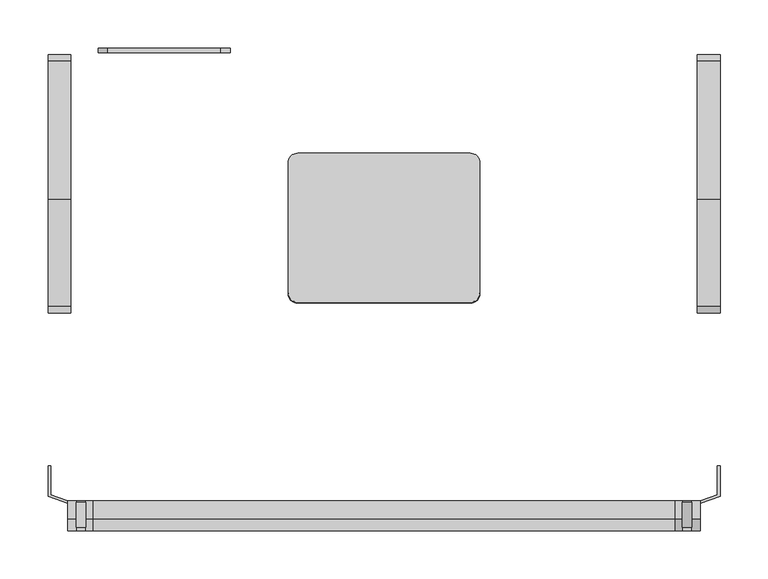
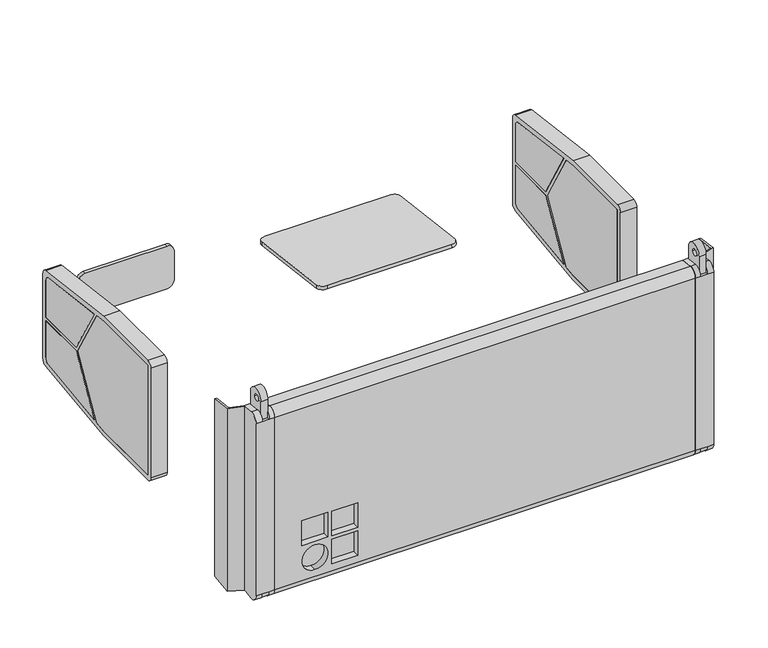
"""IFC4 building model written with IfcOpenShell, lengths in millimetres: proxy geometry, d&b SL-Series XSLi : XSLi12."""

from ifc_helpers import new_model, si_unit, point, frame, frame_2d, origin, place, context, project, spatial, polyline, circle_curve, trimmed, segment, composite_curve, outline, extrude, faceted_brep, source, transform, mapped, element, save
from ifc_brep_helpers import plane_surface, cylinder_surface, revolved_surface, advanced_brep


def communication_devices_4245e99e(model_context):
    return source(origin(), model_context, "Body", "SolidModel", [
        extrude(outline(composite_curve([segment(trimmed(circle_curve(frame_2d((119.6410514, 66.6180129)), 7.5), [point((120.5875427, 74.0580501))], [point((127.1410514, 66.6180129))], False, "CARTESIAN"), True, "CONTINUOUS"), segment(polyline([(127.1410514, 66.6180129), (127.1410514, 10.5484681), (51.7834, 10.5484681), (6.7553622, 88.5393174), (120.5875427, 74.0580501)]), True, "CONTINUOUS")], self_intersect=False)), frame((150.0, 0.0, 0.0), z_axis=(1.0, 0.0, 0.0), x_axis=(0.0, 1.0, 0.0)), (0.0, 0.0, 1.0), 23.6),
        extrude(outline(composite_curve([segment(polyline([(120.5875427, -57.9611139), (6.7552861, -72.4423908), (51.7833295, 5.5484681), (127.1410514, 5.5484681), (127.1410514, -50.5210766)]), True, "CONTINUOUS"), segment(trimmed(circle_curve(frame_2d((119.6410514, -50.5210766)), 7.5), [point((127.1410514, -50.5210766))], [point((120.5875427, -57.9611139))], False, "CARTESIAN"), True, "CONTINUOUS")], self_intersect=False)), frame((150.0, 0.0, 0.0), z_axis=(1.0, 0.0, 0.0), x_axis=(0.0, 1.0, 0.0)), (0.0, 0.0, 1.0), 23.6),
        extrude(outline(polyline([(-126.8744027, 91.5485291), (-16.8989996, 91.5485291), (0.5241915, 89.3320216), (47.4532377, 8.0485291), (0.5241154, -73.2350951), (-16.8980401, -75.4514709), (-126.8744027, -75.4514709), (-126.8744027, 91.5485291)])), frame((150.0, 0.0, 0.0), z_axis=(1.0, 0.0, 0.0), x_axis=(0.0, 1.0, 0.0)), (0.0, 0.0, 1.0), 23.6),
        extrude(outline(composite_curve([segment(trimmed(circle_curve(frame_2d((-126.8744027, -75.4514709)), 7.5), [point((-126.8744027, -82.9514709))], [point((-134.3744027, -75.4514709))], False, "CARTESIAN"), True, "CONTINUOUS"), segment(polyline([(-134.3744027, -75.4514709), (-134.3744027, 91.5485291)]), True, "CONTINUOUS"), segment(trimmed(circle_curve(frame_2d((-126.8744027, 91.5485291)), 7.5), [point((-134.3744027, 91.5485291))], [point((-126.8744027, 99.0485291))], False, "CARTESIAN"), True, "CONTINUOUS"), segment(polyline([(-126.8744027, 99.0485291), (-16.4238546, 99.0485291), (128.0875427, 80.6643766)]), True, "CONTINUOUS"), segment(trimmed(circle_curve(frame_2d((127.1410514, 73.2243394)), 7.5), [point((128.0875427, 80.6643766))], [point((134.6410514, 73.2243394))], False, "CARTESIAN"), True, "CONTINUOUS"), segment(polyline([(134.6410514, 73.2243394), (134.6410514, -57.1274031)]), True, "CONTINUOUS"), segment(trimmed(circle_curve(frame_2d((127.1410514, -57.1274031)), 7.5), [point((134.6410514, -57.1274031))], [point((128.0875427, -64.5674404))], False, "CARTESIAN"), True, "CONTINUOUS"), segment(polyline([(128.0875427, -64.5674404), (-16.422895, -82.9514709), (-126.8744027, -82.9514709)]), True, "CONTINUOUS")], self_intersect=False), holes=[polyline([(-126.8744027, 91.5485291), (-126.8744027, -75.4514709), (-16.8980401, -75.4514709), (0.5241154, -73.2350951), (47.4532377, 8.0485291), (0.5241915, 89.3320216), (-16.8989996, 91.5485291), (-126.8744027, 91.5485291)]), composite_curve([segment(polyline([(6.7552861, -72.4423908), (120.5875427, -57.9611139)]), True, "CONTINUOUS"), segment(trimmed(circle_curve(frame_2d((119.6410514, -50.5210766)), 7.5), [point((120.5875427, -57.9611139))], [point((127.1410514, -50.5210766))], True, "CARTESIAN"), True, "CONTINUOUS"), segment(polyline([(127.1410514, -50.5210766), (127.1410514, 5.5484681), (51.7833295, 5.5484681), (6.7552861, -72.4423908)]), True, "CONTINUOUS")], self_intersect=False), composite_curve([segment(polyline([(51.7834, 10.5484681), (127.1410514, 10.5484681), (127.1410514, 66.6180129)]), True, "CONTINUOUS"), segment(trimmed(circle_curve(frame_2d((119.6410514, 66.6180129)), 7.5), [point((127.1410514, 66.6180129))], [point((120.5875427, 74.0580501))], True, "CARTESIAN"), True, "CONTINUOUS"), segment(polyline([(120.5875427, 74.0580501), (6.7553622, 88.5393174), (51.7834, 10.5484681)]), True, "CONTINUOUS")], self_intersect=False)]), frame((150.0, 0.0, 0.0), z_axis=(1.0, 0.0, 0.0), x_axis=(0.0, 1.0, 0.0)), (0.0, 0.0, 1.0), 23.6),
        extrude(outline(composite_curve([segment(polyline([(120.5875427, -57.9611139), (6.7552861, -72.4423908), (51.7833295, 5.5484681), (127.1410514, 5.5484681), (127.1410514, -50.5210766)]), True, "CONTINUOUS"), segment(trimmed(circle_curve(frame_2d((119.6410514, -50.5210766)), 7.5), [point((127.1410514, -50.5210766))], [point((120.5875427, -57.9611139))], False, "CARTESIAN"), True, "CONTINUOUS")], self_intersect=False)), frame((826.4, 0.0, 0.0), z_axis=(1.0, 0.0, 0.0), x_axis=(0.0, 1.0, 0.0)), (0.0, 0.0, 1.0), 23.6),
        extrude(outline(composite_curve([segment(trimmed(circle_curve(frame_2d((119.6410514, 66.6180129)), 7.5), [point((120.5875427, 74.0580501))], [point((127.1410514, 66.6180129))], False, "CARTESIAN"), True, "CONTINUOUS"), segment(polyline([(127.1410514, 66.6180129), (127.1410514, 10.5484681), (51.7834, 10.5484681), (6.7553622, 88.5393174), (120.5875427, 74.0580501)]), True, "CONTINUOUS")], self_intersect=False)), frame((826.4, 0.0, 0.0), z_axis=(1.0, 0.0, 0.0), x_axis=(0.0, 1.0, 0.0)), (0.0, 0.0, 1.0), 23.6),
        extrude(outline(polyline([(-126.8744027, 91.5485291), (-16.8989996, 91.5485291), (0.5241915, 89.3320216), (47.4532377, 8.0485291), (0.5241154, -73.2350951), (-16.8980401, -75.4514709), (-126.8744027, -75.4514709), (-126.8744027, 91.5485291)])), frame((826.4, 0.0, 0.0), z_axis=(1.0, 0.0, 0.0), x_axis=(0.0, 1.0, 0.0)), (0.0, 0.0, 1.0), 23.6),
        extrude(outline(composite_curve([segment(trimmed(circle_curve(frame_2d((-126.8744027, -75.4514709)), 7.5), [point((-126.8744027, -82.9514709))], [point((-134.3744027, -75.4514709))], False, "CARTESIAN"), True, "CONTINUOUS"), segment(polyline([(-134.3744027, -75.4514709), (-134.3744027, 91.5485291)]), True, "CONTINUOUS"), segment(trimmed(circle_curve(frame_2d((-126.8744027, 91.5485291)), 7.5), [point((-134.3744027, 91.5485291))], [point((-126.8744027, 99.0485291))], False, "CARTESIAN"), True, "CONTINUOUS"), segment(polyline([(-126.8744027, 99.0485291), (-16.4238546, 99.0485291), (128.0875427, 80.6643766)]), True, "CONTINUOUS"), segment(trimmed(circle_curve(frame_2d((127.1410514, 73.2243394)), 7.5), [point((128.0875427, 80.6643766))], [point((134.6410514, 73.2243394))], False, "CARTESIAN"), True, "CONTINUOUS"), segment(polyline([(134.6410514, 73.2243394), (134.6410514, -57.1274031)]), True, "CONTINUOUS"), segment(trimmed(circle_curve(frame_2d((127.1410514, -57.1274031)), 7.5), [point((134.6410514, -57.1274031))], [point((128.0875427, -64.5674404))], False, "CARTESIAN"), True, "CONTINUOUS"), segment(polyline([(128.0875427, -64.5674404), (-16.422895, -82.9514709), (-126.8744027, -82.9514709)]), True, "CONTINUOUS")], self_intersect=False), holes=[polyline([(-126.8744027, 91.5485291), (-126.8744027, -75.4514709), (-16.8980401, -75.4514709), (0.5241154, -73.2350951), (47.4532377, 8.0485291), (0.5241915, 89.3320216), (-16.8989996, 91.5485291), (-126.8744027, 91.5485291)]), composite_curve([segment(polyline([(6.7552861, -72.4423908), (120.5875427, -57.9611139)]), True, "CONTINUOUS"), segment(trimmed(circle_curve(frame_2d((119.6410514, -50.5210766)), 7.5), [point((120.5875427, -57.9611139))], [point((127.1410514, -50.5210766))], True, "CARTESIAN"), True, "CONTINUOUS"), segment(polyline([(127.1410514, -50.5210766), (127.1410514, 5.5484681), (51.7833295, 5.5484681), (6.7552861, -72.4423908)]), True, "CONTINUOUS")], self_intersect=False), composite_curve([segment(polyline([(51.7834, 10.5484681), (127.1410514, 10.5484681), (127.1410514, 66.6180129)]), True, "CONTINUOUS"), segment(trimmed(circle_curve(frame_2d((119.6410514, 66.6180129)), 7.5), [point((127.1410514, 66.6180129))], [point((120.5875427, 74.0580501))], True, "CARTESIAN"), True, "CONTINUOUS"), segment(polyline([(120.5875427, 74.0580501), (6.7553622, 88.5393174), (51.7834, 10.5484681)]), True, "CONTINUOUS")], self_intersect=False)]), frame((826.4, 0.0, 0.0), z_axis=(1.0, 0.0, 0.0), x_axis=(0.0, 1.0, 0.0)), (0.0, 0.0, 1.0), 23.6),
        advanced_brep(
        [(196.8588433, -361.6244027, 137.7034957), (196.8588433, -361.6244027, -124.5717208), (196.8588433, -349.2362136, -135.4837752), (196.8588433, -330.1244027, -133.052445), (196.8588433, -330.1244027, 146.1842209), (196.8588433, -349.2362142, 148.6155502), (189.5, -361.6244027, 137.7034957), (189.5, -349.2362142, 148.6155502), (189.5, -330.1244027, 146.1842209), (189.5, -330.1244027, 137.7034957), (189.5, -330.1244027, -133.052445), (189.5, -349.2362136, -135.4837752), (189.5, -359.7967566, -130.6436171), (189.5, -330.1244027, -130.6436171), (179.5, -361.6244027, 137.7034957), (170.5, -361.6244027, 137.7034957), (170.5, -361.6244027, -124.5717208), (179.5, -361.6244027, -124.5717208), (189.5, -361.6244027, -124.5717208), (179.5, -330.1244027, -130.6436171), (179.5, -330.1244027, -133.052445), (170.5, -330.1244027, -133.052445), (170.5, -330.1244027, 146.1842209), (179.5, -330.1244027, 146.1842209), (179.5, -330.1244027, 137.7034957), (179.5, -359.7967566, -130.6436171), (179.5, -349.2362136, -135.4837752), (179.5, -349.2362142, 148.6155502), (170.5, -349.2362142, 148.6155502), (170.5, -349.2362136, -135.4837752)],
        [
            (0, 1),
            (1, 2, circle_curve(frame((196.8588433, -350.6244027, -124.5717208), z_axis=(1.0, 0.0, 0.0), x_axis=(0.0, 1.0, 0.0)), 11.0)),
            (2, 3),
            (3, 4),
            (4, 5),
            (5, 0, circle_curve(frame((196.8588433, -350.6244027, 137.7034957), z_axis=(1.0, 0.0, 0.0), x_axis=(0.0, 1.0, 0.0)), 11.0)),
            (6, 7, circle_curve(frame((189.5, -350.6244027, 137.7034957), z_axis=(-1.0, 0.0, 0.0), x_axis=(0.0, 1.0, 0.0)), 11.0)),
            (7, 8),
            (8, 9),
            (9, 6),
            (10, 11),
            (11, 12, circle_curve(frame((189.5, -350.6244027, -124.5717208), z_axis=(-1.0, 0.0, 0.0), x_axis=(0.0, 1.0, 0.0)), 11.0)),
            (12, 13),
            (13, 10),
            (0, 6),
            (6, 14),
            (14, 15),
            (15, 16),
            (16, 17),
            (17, 18),
            (18, 1),
            (18, 12, circle_curve(frame((189.5, -350.6244027, -124.5717208), z_axis=(1.0, 0.0, 0.0), x_axis=(0.0, 1.0, 0.0)), 11.0)),
            (11, 2),
            (10, 3),
            (13, 19),
            (19, 20),
            (20, 21),
            (21, 22),
            (22, 23),
            (23, 24),
            (24, 9),
            (8, 4),
            (7, 5),
            (17, 25, circle_curve(frame((179.5, -350.6244027, -124.5717208), z_axis=(1.0, 0.0, 0.0), x_axis=(0.0, 1.0, 0.0)), 11.0)),
            (25, 12),
            (25, 19),
            (24, 14),
            (26, 20),
            (25, 26, circle_curve(frame((179.5, -350.6244027, -124.5717208), z_axis=(1.0, 0.0, 0.0), x_axis=(0.0, 1.0, 0.0)), 11.0)),
            (23, 27),
            (27, 14, circle_curve(frame((179.5, -350.6244027, 137.7034957), z_axis=(1.0, 0.0, 0.0), x_axis=(0.0, 1.0, 0.0)), 11.0)),
            (15, 28, circle_curve(frame((170.5, -350.6244027, 137.7034957), z_axis=(-1.0, 0.0, 0.0), x_axis=(0.0, 1.0, 0.0)), 11.0)),
            (28, 22),
            (21, 29),
            (29, 16, circle_curve(frame((170.5, -350.6244027, -124.5717208), z_axis=(-1.0, 0.0, 0.0), x_axis=(0.0, 1.0, 0.0)), 11.0)),
            (29, 26),
            (28, 27),
        ],
        [
            plane_surface(frame((196.8588433, -361.6244027, -156.4450735), z_axis=(1.0, 0.0, 0.0), x_axis=(0.0, 0.0, -1.0))),
            plane_surface(frame((189.5, -361.6244027, -156.4450735), z_axis=(-1.0, 0.0, 0.0), x_axis=(0.0, 0.0, 1.0))),
            plane_surface(frame((196.8588433, -361.6244027, 137.7034957), z_axis=(0.0, -1.0, 0.0), x_axis=(-1.0, 0.0, 0.0))),
            cylinder_surface(frame((189.5, -350.6244027, -124.5717208), z_axis=(1.0, 0.0, 0.0), x_axis=(0.0, 1.0, 0.0)), 11.0),
            plane_surface(frame((196.8588433, -349.2362136, -135.4837752), z_axis=(0.0, 0.12619900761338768, -0.9920049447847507), x_axis=(-1.0, 0.0, 0.0))),
            plane_surface(frame((196.8588433, -330.1244027, -133.052445), z_axis=(0.0, 1.0, 0.0), x_axis=(-1.0, 0.0, 0.0))),
            plane_surface(frame((196.8588433, -330.1244027, 146.1842209), z_axis=(0.0, 0.1261989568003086, 0.9920049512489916), x_axis=(-1.0, 0.0, 0.0))),
            cylinder_surface(frame((189.5, -350.6244027, 137.7034957), z_axis=(1.0, 0.0, 0.0), x_axis=(0.0, 1.0, 0.0)), 11.0),
            cylinder_surface(frame((179.5, -350.6244027, -124.5717208), z_axis=(1.0, 0.0, 0.0), x_axis=(0.0, 1.0, 0.0)), 11.0),
            plane_surface(frame((189.5, -359.7967566, -130.6436171), z_axis=(0.0, 0.0, -1.0), x_axis=(-1.0, 0.0, 0.0))),
            plane_surface(frame((189.5, -330.1244027, 137.7034957), z_axis=(0.0, 0.0, 1.0), x_axis=(-1.0, 0.0, 0.0))),
            plane_surface(frame((179.5, -361.6244027, -156.4450735), z_axis=(1.0, 0.0, 0.0), x_axis=(0.0, 0.0, -1.0))),
            plane_surface(frame((170.5, -361.6244027, -156.4450735), z_axis=(-1.0, 0.0, 0.0), x_axis=(0.0, 0.0, 1.0))),
            cylinder_surface(frame((170.5, -350.6244027, -124.5717208), z_axis=(1.0, 0.0, 0.0), x_axis=(0.0, 1.0, 0.0)), 11.0),
            plane_surface(frame((179.5, -349.2362136, -135.4837752), z_axis=(0.0, 0.12619900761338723, -0.9920049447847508), x_axis=(-1.0, 0.0, 0.0))),
            plane_surface(frame((179.5, -330.1244027, 146.1842209), z_axis=(0.0, 0.1261989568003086, 0.9920049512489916), x_axis=(-1.0, 0.0, 0.0))),
            cylinder_surface(frame((170.5, -350.6244027, 137.7034957), z_axis=(1.0, 0.0, 0.0), x_axis=(0.0, 1.0, 0.0)), 11.0),
        ],
        [
            (0, [[1, 2, 3, 4, 5, 6]]),
            (1, [[7, 8, 9, 10]]),
            (1, [[11, 12, 13, 14]]),
            (2, [[-1, 15, 16, 17, 18, 19, 20, 21]]),
            (3, [[-2, -21, 22, -12, 23]]),
            (4, [[-3, -23, -11, 24]]),
            (5, [[-4, -24, -14, 25, 26, 27, 28, 29, 30, 31, -9, 32]]),
            (6, [[-5, -32, -8, 33]]),
            (7, [[-6, -33, -7, -15]]),
            (8, [[-20, 34, 35, -22]]),
            (9, [[-35, 36, -25, -13]]),
            (10, [[-16, -10, -31, 37]]),
            (11, [[38, -26, -36, 39]]),
            (11, [[40, 41, -37, -30]]),
            (12, [[42, 43, -28, 44, 45, -18]]),
            (13, [[-45, 46, -39, -34, -19]]),
            (14, [[-38, -46, -44, -27]]),
            (15, [[-40, -29, -43, 47]]),
            (16, [[-41, -47, -42, -17]]),
        ],
    ),
        advanced_brep(
        [(803.1411567, -361.6244027, 137.7034957), (803.1411567, -349.2362142, 148.6155502), (803.1411567, -330.1244027, 146.1842209), (803.1411567, -330.1244027, -133.052445), (803.1411567, -349.2362136, -135.4837752), (803.1411567, -361.6244027, -124.5717208), (810.5, -349.2362136, -135.4837752), (810.5, -330.1244027, -133.052445), (810.5, -330.1244027, -130.6436171), (810.5, -359.7967566, -130.6436171), (810.5, -330.1244027, 146.1842209), (810.5, -349.2362142, 148.6155502), (810.5, -361.6244027, 137.7034957), (810.5, -330.1244027, 137.7034957), (810.5, -361.6244027, -124.5717208), (820.5, -361.6244027, -124.5717208), (829.5, -361.6244027, -124.5717208), (829.5, -361.6244027, 137.7034957), (820.5, -361.6244027, 137.7034957), (820.5, -330.1244027, 137.7034957), (820.5, -330.1244027, 146.1842209), (829.5, -330.1244027, 146.1842209), (829.5, -330.1244027, -133.052445), (820.5, -330.1244027, -133.052445), (820.5, -330.1244027, -130.6436171), (820.5, -359.7967566, -130.6436171), (820.5, -349.2362142, 148.6155502), (820.5, -349.2362136, -135.4837752), (829.5, -349.2362136, -135.4837752), (829.5, -349.2362142, 148.6155502)],
        [
            (0, 1, circle_curve(frame((803.1411567, -350.6244027, 137.7034957), z_axis=(-1.0, 0.0, 0.0), x_axis=(0.0, 1.0, 0.0)), 11.0)),
            (1, 2),
            (2, 3),
            (3, 4),
            (4, 5, circle_curve(frame((803.1411567, -350.6244027, -124.5717208), z_axis=(-1.0, 0.0, 0.0), x_axis=(0.0, 1.0, 0.0)), 11.0)),
            (5, 0),
            (6, 7),
            (7, 8),
            (8, 9),
            (9, 6, circle_curve(frame((810.5, -350.6244027, -124.5717208), z_axis=(1.0, 0.0, 0.0), x_axis=(0.0, 1.0, 0.0)), 11.0)),
            (10, 11),
            (11, 12, circle_curve(frame((810.5, -350.6244027, 137.7034957), z_axis=(1.0, 0.0, 0.0), x_axis=(0.0, 1.0, 0.0)), 11.0)),
            (12, 13),
            (13, 10),
            (5, 14),
            (14, 15),
            (15, 16),
            (16, 17),
            (17, 18),
            (18, 12),
            (12, 0),
            (4, 6),
            (9, 14, circle_curve(frame((810.5, -350.6244027, -124.5717208), z_axis=(-1.0, 0.0, 0.0), x_axis=(0.0, 1.0, 0.0)), 11.0)),
            (3, 7),
            (2, 10),
            (13, 19),
            (19, 20),
            (20, 21),
            (21, 22),
            (22, 23),
            (23, 24),
            (24, 8),
            (1, 11),
            (24, 25),
            (25, 9),
            (25, 15, circle_curve(frame((820.5, -350.6244027, -124.5717208), z_axis=(-1.0, 0.0, 0.0), x_axis=(0.0, 1.0, 0.0)), 11.0)),
            (18, 19),
            (18, 26, circle_curve(frame((820.5, -350.6244027, 137.7034957), z_axis=(-1.0, 0.0, 0.0), x_axis=(0.0, 1.0, 0.0)), 11.0)),
            (26, 20),
            (23, 27),
            (27, 25, circle_curve(frame((820.5, -350.6244027, -124.5717208), z_axis=(-1.0, 0.0, 0.0), x_axis=(0.0, 1.0, 0.0)), 11.0)),
            (16, 28, circle_curve(frame((829.5, -350.6244027, -124.5717208), z_axis=(1.0, 0.0, 0.0), x_axis=(0.0, 1.0, 0.0)), 11.0)),
            (28, 22),
            (21, 29),
            (29, 17, circle_curve(frame((829.5, -350.6244027, 137.7034957), z_axis=(1.0, 0.0, 0.0), x_axis=(0.0, 1.0, 0.0)), 11.0)),
            (27, 28),
            (26, 29),
        ],
        [
            plane_surface(frame((803.1411567, -339.6244027, 137.7034957), z_axis=(-1.0, 0.0, 0.0), x_axis=(0.0, 0.0, -1.0))),
            plane_surface(frame((810.5, -339.6244027, 137.7034957), z_axis=(1.0, 0.0, 0.0), x_axis=(0.0, 0.0, 1.0))),
            plane_surface(frame((803.1411567, -361.6244027, -124.5717208), z_axis=(0.0, -1.0, 0.0), x_axis=(1.0, 0.0, 0.0))),
            cylinder_surface(frame((810.5, -350.6244027, -124.5717208), z_axis=(-1.0, 0.0, 0.0), x_axis=(0.0, 1.0, 0.0)), 11.0),
            plane_surface(frame((803.1411567, -330.1244027, -133.052445), z_axis=(0.0, 0.12619900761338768, -0.9920049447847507), x_axis=(1.0, 0.0, 0.0))),
            plane_surface(frame((803.1411567, -330.1244027, 146.1842209), z_axis=(0.0, 1.0, 0.0), x_axis=(1.0, 0.0, 0.0))),
            plane_surface(frame((803.1411567, -349.2362142, 148.6155502), z_axis=(0.0, 0.1261989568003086, 0.9920049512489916), x_axis=(1.0, 0.0, 0.0))),
            cylinder_surface(frame((810.5, -350.6244027, 137.7034957), z_axis=(-1.0, 0.0, 0.0), x_axis=(0.0, 1.0, 0.0)), 11.0),
            plane_surface(frame((810.5, -330.1244027, -130.6436171), z_axis=(0.0, 0.0, -1.0), x_axis=(1.0, 0.0, 0.0))),
            cylinder_surface(frame((820.5, -350.6244027, -124.5717208), z_axis=(-1.0, 0.0, 0.0), x_axis=(0.0, 1.0, 0.0)), 11.0),
            plane_surface(frame((810.5, -361.6244027, 137.7034957), z_axis=(0.0, 0.0, 1.0), x_axis=(1.0, 0.0, 0.0))),
            plane_surface(frame((820.5, -339.6244027, 137.7034957), z_axis=(-1.0, 0.0, 0.0), x_axis=(0.0, 0.0, -1.0))),
            plane_surface(frame((829.5, -339.6244027, 137.7034957), z_axis=(1.0, 0.0, 0.0), x_axis=(0.0, 0.0, 1.0))),
            cylinder_surface(frame((829.5, -350.6244027, -124.5717208), z_axis=(-1.0, 0.0, 0.0), x_axis=(0.0, 1.0, 0.0)), 11.0),
            plane_surface(frame((820.5, -330.1244027, -133.052445), z_axis=(0.0, 0.12619900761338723, -0.9920049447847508), x_axis=(1.0, 0.0, 0.0))),
            plane_surface(frame((820.5, -349.2362142, 148.6155502), z_axis=(0.0, 0.1261989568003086, 0.9920049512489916), x_axis=(1.0, 0.0, 0.0))),
            cylinder_surface(frame((829.5, -350.6244027, 137.7034957), z_axis=(-1.0, 0.0, 0.0), x_axis=(0.0, 1.0, 0.0)), 11.0),
        ],
        [
            (0, [[1, 2, 3, 4, 5, 6]]),
            (1, [[7, 8, 9, 10]]),
            (1, [[11, 12, 13, 14]]),
            (2, [[-6, 15, 16, 17, 18, 19, 20, 21]]),
            (3, [[-5, 22, -10, 23, -15]]),
            (4, [[-4, 24, -7, -22]]),
            (5, [[-3, 25, -14, 26, 27, 28, 29, 30, 31, 32, -8, -24]]),
            (6, [[-2, 33, -11, -25]]),
            (7, [[-1, -21, -12, -33]]),
            (8, [[-32, 34, 35, -9]]),
            (9, [[-35, 36, -16, -23]]),
            (10, [[-26, -13, -20, 37]]),
            (11, [[38, 39, -27, -37]]),
            (11, [[40, 41, -34, -31]]),
            (12, [[-18, 42, 43, -29, 44, 45]]),
            (13, [[-42, -17, -36, -41, 46]]),
            (14, [[-40, -30, -43, -46]]),
            (15, [[-39, 47, -44, -28]]),
            (16, [[-38, -19, -45, -47]]),
        ],
    ),
        extrude(outline(composite_curve([segment(polyline([(-357.9244027, 137.7034957), (-357.9244027, 165.7)]), True, "CONTINUOUS"), segment(trimmed(circle_curve(frame_2d((-344.9744027, 165.7)), 12.95), [point((-357.9244027, 165.7))], [point((-332.0244027, 165.7))], False, "CARTESIAN"), True, "CONTINUOUS"), segment(polyline([(-332.0244027, 165.7), (-332.0244027, 137.7034957), (-357.9244027, 137.7034957)]), True, "CONTINUOUS")], self_intersect=False), holes=[composite_curve([segment(trimmed(circle_curve(frame_2d((-347.1244027, 165.7)), 4.65), [point((-351.7744027, 165.7))], [point((-342.4744027, 165.7))], True, "CARTESIAN"), True, "CONTINUOUS"), segment(trimmed(circle_curve(frame_2d((-347.1244027, 165.7)), 4.65), [point((-342.4744027, 165.7))], [point((-351.7744027, 165.7))], True, "CARTESIAN"), True, "CONTINUOUS")], self_intersect=False)]), frame((810.5, 0.0, 0.0), z_axis=(1.0, 0.0, 0.0), x_axis=(0.0, 1.0, 0.0)), (0.0, 0.0, 1.0), 10.0),
        advanced_brep(
        [(803.1411567, -361.6244027, 137.7034957), (803.1411567, -361.6244027, -124.5717208), (803.1411567, -349.2362136, -135.4837752), (803.1411567, -330.1244027, -133.052445), (803.1411567, -330.1244027, 146.1842209), (803.1411567, -349.2362142, 148.6155502), (196.8588433, -361.6244027, 137.7034957), (196.8588433, -349.2362142, 148.6155502), (196.8588433, -330.1244027, 146.1842209), (196.8588433, -330.1244027, -133.052445), (196.8588433, -349.2362136, -135.4837752), (196.8588433, -361.6244027, -124.5717208), (273.9761951, -351.6244027, -33.5096005), (236.4761951, -351.6244027, -33.5096005), (236.4761951, -351.6244027, -71.0096005), (273.9761951, -351.6244027, -71.0096005), (316.833338, -351.6244027, -33.5096005), (279.333338, -351.6244027, -33.5096005), (279.333338, -351.6244027, -71.0096005), (316.833338, -351.6244027, -71.0096005), (316.833338, -351.6244027, -76.3667433), (279.333338, -351.6244027, -76.3667433), (279.333338, -351.6244027, -113.8667433), (316.833338, -351.6244027, -113.8667433), (255.2261951, -351.6244027, -76.3667433), (255.2261951, -351.6244027, -113.8667433), (273.9761951, -361.6244027, -71.0096005), (273.9761951, -361.6244027, -33.5096005), (236.4761951, -361.6244027, -71.0096005), (236.4761951, -361.6244027, -33.5096005), (316.833338, -361.6244027, -71.0096005), (316.833338, -361.6244027, -33.5096005), (279.333338, -361.6244027, -71.0096005), (279.333338, -361.6244027, -33.5096005), (316.833338, -361.6244027, -113.8667433), (316.833338, -361.6244027, -76.3667433), (279.333338, -361.6244027, -113.8667433), (279.333338, -361.6244027, -76.3667433), (255.2261951, -361.6244027, -113.8667433), (255.2261951, -361.6244027, -76.3667433)],
        [
            (0, 1),
            (1, 2, circle_curve(frame((803.1411567, -350.6244027, -124.5717208), z_axis=(1.0, 0.0, 0.0), x_axis=(0.0, 1.0, 0.0)), 11.0)),
            (2, 3),
            (3, 4),
            (4, 5),
            (5, 0, circle_curve(frame((803.1411567, -350.6244027, 137.7034957), z_axis=(1.0, 0.0, 0.0), x_axis=(0.0, 1.0, 0.0)), 11.0)),
            (6, 7, circle_curve(frame((196.8588433, -350.6244027, 137.7034957), z_axis=(-1.0, 0.0, 0.0), x_axis=(0.0, 1.0, 0.0)), 11.0)),
            (7, 8),
            (8, 9),
            (9, 10),
            (10, 11, circle_curve(frame((196.8588433, -350.6244027, -124.5717208), z_axis=(-1.0, 0.0, 0.0), x_axis=(0.0, 1.0, 0.0)), 11.0)),
            (11, 6),
            (12, 13),
            (13, 14),
            (14, 15),
            (15, 12),
            (16, 17),
            (17, 18),
            (18, 19),
            (19, 16),
            (20, 21),
            (21, 22),
            (22, 23),
            (23, 20),
            (24, 25, circle_curve(frame((255.2261951, -351.6244027, -95.1167433), z_axis=(0.0, -1.0, 0.0), x_axis=(0.0, 0.0, -1.0)), 18.75)),
            (25, 24, circle_curve(frame((255.2261951, -351.6244027, -95.1167433), z_axis=(0.0, -1.0, 0.0), x_axis=(0.0, 0.0, -1.0)), 18.75)),
            (15, 26),
            (26, 27),
            (27, 12),
            (14, 28),
            (28, 26),
            (13, 29),
            (29, 28),
            (27, 29),
            (19, 30),
            (30, 31),
            (31, 16),
            (18, 32),
            (32, 30),
            (17, 33),
            (33, 32),
            (31, 33),
            (23, 34),
            (34, 35),
            (35, 20),
            (22, 36),
            (36, 34),
            (21, 37),
            (37, 36),
            (35, 37),
            (25, 38),
            (38, 39, circle_curve(frame((255.2261951, -361.6244027, -95.1167433), z_axis=(0.0, -1.0, 0.0), x_axis=(0.0, 0.0, -1.0)), 18.75)),
            (39, 24),
            (39, 38, circle_curve(frame((255.2261951, -361.6244027, -95.1167433), z_axis=(0.0, -1.0, 0.0), x_axis=(0.0, 0.0, -1.0)), 18.75)),
            (0, 6),
            (11, 1),
            (10, 2),
            (9, 3),
            (8, 4),
            (7, 5),
        ],
        [
            plane_surface(frame((803.1411567, -361.6244027, -156.4450735), z_axis=(1.0, 0.0, 0.0), x_axis=(0.0, 0.0, -1.0))),
            plane_surface(frame((196.8588433, -361.6244027, -156.4450735), z_axis=(-1.0, 0.0, 0.0), x_axis=(0.0, 0.0, 1.0))),
            plane_surface(frame((273.9761951, -351.6244027, -34.7596005), z_axis=(0.0, -1.0, 0.0), x_axis=(0.0, 0.0, -1.0))),
            plane_surface(frame((273.9761951, -351.6244027, -33.5096005), z_axis=(-1.0, 0.0, 0.0), x_axis=(0.0, -1.0, 0.0))),
            plane_surface(frame((273.9761951, -351.6244027, -71.0096005), z_axis=(0.0, 0.0, 1.0), x_axis=(0.0, -1.0, 0.0))),
            plane_surface(frame((236.4761951, -351.6244027, -71.0096005), z_axis=(1.0, 0.0, 0.0), x_axis=(0.0, -1.0, 0.0))),
            plane_surface(frame((236.4761951, -351.6244027, -33.5096005), z_axis=(0.0, 0.0, -1.0), x_axis=(0.0, -1.0, 0.0))),
            plane_surface(frame((316.833338, -351.6244027, -33.5096005), z_axis=(-1.0, 0.0, 0.0), x_axis=(0.0, -1.0, 0.0))),
            plane_surface(frame((316.833338, -351.6244027, -71.0096005), z_axis=(0.0, 0.0, 1.0), x_axis=(0.0, -1.0, 0.0))),
            plane_surface(frame((279.333338, -351.6244027, -71.0096005), z_axis=(1.0, 0.0, 0.0), x_axis=(0.0, -1.0, 0.0))),
            plane_surface(frame((279.333338, -351.6244027, -33.5096005), z_axis=(0.0, 0.0, -1.0), x_axis=(0.0, -1.0, 0.0))),
            plane_surface(frame((316.833338, -351.6244027, -76.3667433), z_axis=(-1.0, 0.0, 0.0), x_axis=(0.0, -1.0, 0.0))),
            plane_surface(frame((316.833338, -351.6244027, -113.8667433), z_axis=(0.0, 0.0, 1.0), x_axis=(0.0, -1.0, 0.0))),
            plane_surface(frame((279.333338, -351.6244027, -113.8667433), z_axis=(1.0, 0.0, 0.0), x_axis=(0.0, -1.0, 0.0))),
            plane_surface(frame((279.333338, -351.6244027, -76.3667433), z_axis=(0.0, 0.0, -1.0), x_axis=(0.0, -1.0, 0.0))),
            revolved_surface(polyline([(255.2261951, -351.6244027, -113.8667433), (255.2261951, -361.6244027, -113.8667433)]), (255.2261951, -361.6244027, -95.1167433), (0.0, 1.0, 0.0)),
            plane_surface(frame((803.1411567, -361.6244027, 137.7034957), z_axis=(0.0, -1.0, 0.0), x_axis=(-1.0, 0.0, 0.0))),
            cylinder_surface(frame((196.8588433, -350.6244027, -124.5717208), z_axis=(1.0, 0.0, 0.0), x_axis=(0.0, 1.0, 0.0)), 11.0),
            plane_surface(frame((803.1411567, -349.2362136, -135.4837752), z_axis=(0.0, 0.12619900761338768, -0.9920049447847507), x_axis=(-1.0, 0.0, 0.0))),
            plane_surface(frame((803.1411567, -330.1244027, -133.052445), z_axis=(0.0, 1.0, 0.0), x_axis=(-1.0, 0.0, 0.0))),
            plane_surface(frame((803.1411567, -330.1244027, 146.1842209), z_axis=(0.0, 0.1261989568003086, 0.9920049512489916), x_axis=(-1.0, 0.0, 0.0))),
            cylinder_surface(frame((196.8588433, -350.6244027, 137.7034957), z_axis=(1.0, 0.0, 0.0), x_axis=(0.0, 1.0, 0.0)), 11.0),
        ],
        [
            (0, [[1, 2, 3, 4, 5, 6]]),
            (1, [[7, 8, 9, 10, 11, 12]]),
            (2, [[13, 14, 15, 16]]),
            (2, [[17, 18, 19, 20]]),
            (2, [[21, 22, 23, 24]]),
            (2, [[25, 26]]),
            (3, [[-16, 27, 28, 29]]),
            (4, [[-15, 30, 31, -27]]),
            (5, [[-14, 32, 33, -30]]),
            (6, [[-13, -29, 34, -32]]),
            (7, [[-20, 35, 36, 37]]),
            (8, [[-19, 38, 39, -35]]),
            (9, [[-18, 40, 41, -38]]),
            (10, [[-17, -37, 42, -40]]),
            (11, [[-24, 43, 44, 45]]),
            (12, [[-23, 46, 47, -43]]),
            (13, [[-22, 48, 49, -46]]),
            (14, [[-21, -45, 50, -48]]),
            (15, [[-26, 51, 52, 53]]),
            (15, [[-25, -53, 54, -51]]),
            (16, [[-1, 55, -12, 56], [-28, -31, -33, -34], [-36, -39, -41, -42], [-44, -47, -49, -50], [-52, -54]]),
            (17, [[-2, -56, -11, 57]]),
            (18, [[-3, -57, -10, 58]]),
            (19, [[-4, -58, -9, 59]]),
            (20, [[-5, -59, -8, 60]]),
            (21, [[-6, -60, -7, -55]]),
        ],
    ),
        extrude(outline(composite_curve([segment(polyline([(-357.9244027, 137.7034957), (-357.9244027, 165.7)]), True, "CONTINUOUS"), segment(trimmed(circle_curve(frame_2d((-344.9744027, 165.7)), 12.95), [point((-357.9244027, 165.7))], [point((-332.0244027, 165.7))], False, "CARTESIAN"), True, "CONTINUOUS"), segment(polyline([(-332.0244027, 165.7), (-332.0244027, 137.7034957), (-357.9244027, 137.7034957)]), True, "CONTINUOUS")], self_intersect=False), holes=[composite_curve([segment(trimmed(circle_curve(frame_2d((-347.1244027, 165.7)), 4.65), [point((-351.7744027, 165.7))], [point((-342.4744027, 165.7))], True, "CARTESIAN"), True, "CONTINUOUS"), segment(trimmed(circle_curve(frame_2d((-347.1244027, 165.7)), 4.65), [point((-342.4744027, 165.7))], [point((-351.7744027, 165.7))], True, "CARTESIAN"), True, "CONTINUOUS")], self_intersect=False)]), frame((179.5, 0.0, 0.0), z_axis=(1.0, 0.0, 0.0), x_axis=(0.0, 1.0, 0.0)), (0.0, 0.0, 1.0), 10.0),
        faceted_brep([(847.0, -294.0371274, 141.5933401), (847.0, -294.0371274, -128.4615623), (847.0, -323.849354, -132.2541577), (847.0, -323.849354, 145.3859339), (829.5, -330.2188331, -133.0644581), (829.5, -330.2188331, 146.1962339), (829.5, -332.8792775, -133.4029095), (829.5, -332.8792775, 146.5346852), (850.0, -325.4178877, 145.5854766), (850.0, -325.4178877, -132.4537005), (850.0, -294.0371274, -128.4615623), (850.0, -294.0371274, 141.5933401)], [[[0, 1, 2, 3]], [[3, 2, 4, 5]], [[5, 4, 6, 7]], [[8, 9, 10, 11]], [[1, 0, 11, 10]], [[9, 8, 7, 6]], [[0, 3, 5, 7, 8, 11]], [[2, 1, 10, 9, 6, 4]]]),
        faceted_brep([(153.0, -294.0371274, 141.5933401), (153.0, -294.0371274, -128.4615623), (150.0, -294.0371274, -128.4615623), (150.0, -294.0371274, 141.5933401), (150.0, -325.4178877, -132.4537005), (150.0, -325.4178877, 145.5854766), (170.5, -332.8792775, -133.4029095), (170.5, -332.8792775, 146.5346852), (170.5, -330.2188331, -133.0644581), (170.5, -330.2188331, 146.1962339), (153.0, -323.849354, -132.2541577), (153.0, -323.849354, 145.3859339)], [[[0, 1, 2, 3]], [[3, 2, 4, 5]], [[5, 4, 6, 7]], [[7, 6, 8, 9]], [[9, 8, 10, 11]], [[1, 0, 11, 10]], [[0, 3, 5, 7, 9, 11]], [[2, 1, 10, 8, 6, 4]]]),
        extrude(outline(composite_curve([segment(trimmed(circle_curve(frame_2d((-5.0, 212.3427727)), 10.0), [point((-5.0, 202.3427727))], [point((-15.0, 212.3427727))], False, "CARTESIAN"), True, "CONTINUOUS"), segment(polyline([(-15.0, 212.3427727), (-15.0, 330.0)]), True, "CONTINUOUS"), segment(trimmed(circle_curve(frame_2d((-5.0, 330.0)), 10.0), [point((-15.0, 330.0))], [point((-5.0, 340.0))], False, "CARTESIAN"), True, "CONTINUOUS"), segment(polyline([(-5.0, 340.0), (40.0, 340.0)]), True, "CONTINUOUS"), segment(trimmed(circle_curve(frame_2d((40.0, 330.0)), 10.0), [point((40.0, 340.0))], [point((50.0, 330.0))], False, "CARTESIAN"), True, "CONTINUOUS"), segment(polyline([(50.0, 330.0), (50.0, 212.3427727)]), True, "CONTINUOUS"), segment(trimmed(circle_curve(frame_2d((40.0, 212.3427727)), 10.0), [point((50.0, 212.3427727))], [point((40.0, 202.3427727))], False, "CARTESIAN"), True, "CONTINUOUS"), segment(polyline([(40.0, 202.3427727), (-5.0, 202.3427727)]), True, "CONTINUOUS")], self_intersect=False)), frame((0.0, 136.8755973, 0.0), z_axis=(0.0, 1.0, 0.0), x_axis=(0.0, 0.0, 1.0)), (0.0, 0.0, 1.0), 5.0),
        extrude(outline(composite_curve([segment(polyline([(0.0, -20.0), (-179.7207032, -20.0)]), True, "CONTINUOUS"), segment(trimmed(circle_curve(frame_2d((-179.7207032, -10.0)), 10.0), [point((-179.7207032, -20.0))], [point((-189.7207032, -10.0))], False, "CARTESIAN"), True, "CONTINUOUS"), segment(polyline([(-189.7207032, -10.0), (-189.7207032, 126.8564608)]), True, "CONTINUOUS"), segment(trimmed(circle_curve(frame_2d((-179.7207032, 126.8564608)), 10.0), [point((-189.7207032, 126.8564608))], [point((-179.7207032, 136.8564608))], False, "CARTESIAN"), True, "CONTINUOUS"), segment(polyline([(-179.7207032, 136.8564608), (0.0, 136.8564608)]), True, "CONTINUOUS"), segment(trimmed(circle_curve(frame_2d((0.0, 126.8564608)), 10.0), [point((0.0, 136.8564608))], [point((10.0, 126.8564608))], False, "CARTESIAN"), True, "CONTINUOUS"), segment(polyline([(10.0, 126.8564608), (10.0, -10.0)]), True, "CONTINUOUS"), segment(trimmed(circle_curve(frame_2d((0.0, -10.0)), 10.0), [point((10.0, -10.0))], [point((0.0, -20.0))], False, "CARTESIAN"), True, "CONTINUOUS")], self_intersect=False)), frame((589.8603516, -104.2360257, 112.4072952), z_axis=(0.0, 0.12619895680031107, 0.9920049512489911), x_axis=(1.0, 0.0, 0.0)), (0.0, 0.0, 1.0), 5.0),
    ])


if __name__ == "__main__":
    model = new_model("IFC4")
    model_context = context("Model", 3, world=origin())
    ifc_project = project(units=[si_unit("LENGTHUNIT", "METRE", prefix="MILLI")], contexts=[model_context])
    site = spatial("IfcSite", under=ifc_project)
    building = spatial("IfcBuilding", under=site)
    placement = place(None, origin())
    communication_devices_shape = communication_devices_4245e99e(model_context)
    element("IfcBuildingElementProxy", 1, Name="d&b SL-Series XSLi : XSLi12", ObjectType="d&b SL-Series XSLi : XSLi12", at=placement, inside=building, context=model_context, shape_type="MappedRepresentation", body=[
        mapped(communication_devices_shape, transform((0.0, 0.0, 0.0), x_axis=(1.0, 0.0, 0.0), y_axis=(0.0, 1.0, 0.0), z_axis=(0.0, 0.0, 1.0))),
    ])
    save(model, "model.ifc")
